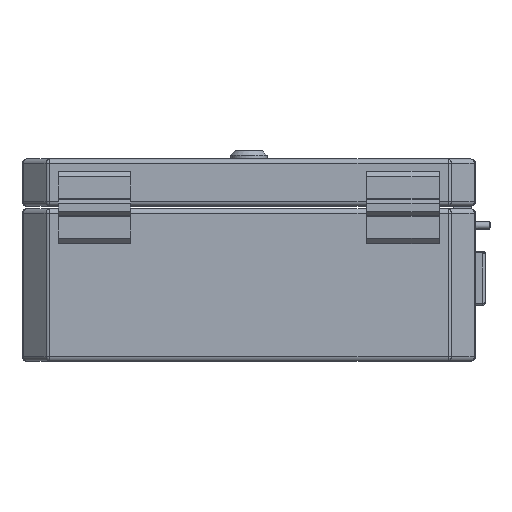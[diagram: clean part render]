
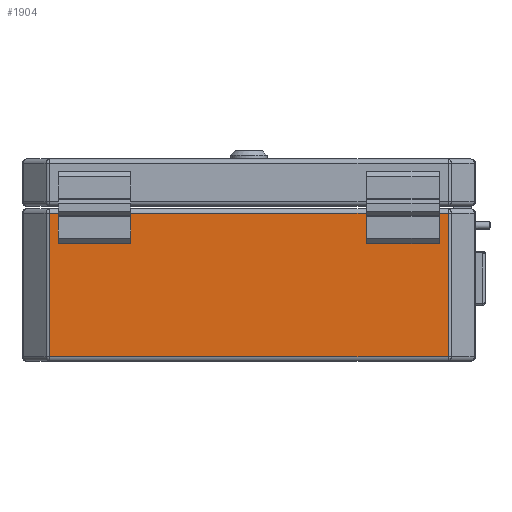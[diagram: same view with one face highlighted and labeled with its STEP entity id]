
A CAD part, left-side view. The second image highlights one B-rep face of the part: STEP entity #1904.
In plain terms, the highlighted planar face has unit normal (-1, 0, 0).
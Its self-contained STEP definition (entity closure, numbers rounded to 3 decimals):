
#1387=CARTESIAN_POINT('',(-212.5,-65.,64.75));
#1388=VERTEX_POINT('',#1387);
#1395=CARTESIAN_POINT('',(-212.5,-65.,79.35));
#1396=VERTEX_POINT('',#1395);
#1397=CARTESIAN_POINT('',(-212.5,-65.,64.75));
#1398=DIRECTION('',(0.,0.,1.));
#1399=VECTOR('',#1398,14.6);
#1400=LINE('',#1397,#1399);
#1401=EDGE_CURVE('',#1388,#1396,#1400,.T.);
#1556=CARTESIAN_POINT('',(-212.5,-105.,64.75));
#1557=VERTEX_POINT('',#1556);
#1564=CARTESIAN_POINT('',(-212.5,-105.,79.35));
#1565=VERTEX_POINT('',#1564);
#1566=CARTESIAN_POINT('',(-212.5,-105.,64.75));
#1567=DIRECTION('',(0.,0.,1.));
#1568=VECTOR('',#1567,14.6);
#1569=LINE('',#1566,#1568);
#1570=EDGE_CURVE('',#1557,#1565,#1569,.T.);
#1809=CARTESIAN_POINT('',(-212.5,-65.,64.75));
#1810=DIRECTION('',(0.,-1.,0.));
#1811=VECTOR('',#1810,40.);
#1812=LINE('',#1809,#1811);
#1813=EDGE_CURVE('',#1388,#1557,#1812,.T.);
#1820=CARTESIAN_POINT('',(-212.5,0.,43.25));
#1821=DIRECTION('',(0.,-1.,0.));
#1822=DIRECTION('',(-1.,0.,0.));
#1823=AXIS2_PLACEMENT_3D('',#1820,#1822,#1821);
#1824=PLANE('',#1823);
#1825=CARTESIAN_POINT('',(-212.5,109.964,2.5));
#1826=VERTEX_POINT('',#1825);
#1827=CARTESIAN_POINT('',(-212.5,-109.964,2.5));
#1828=VERTEX_POINT('',#1827);
#1829=CARTESIAN_POINT('',(-212.5,109.964,2.5));
#1830=DIRECTION('',(0.,-1.,0.));
#1831=VECTOR('',#1830,219.929);
#1832=LINE('',#1829,#1831);
#1833=EDGE_CURVE('',#1826,#1828,#1832,.T.);
#1834=ORIENTED_EDGE('',*,*,#1833,.T.);
#1835=CARTESIAN_POINT('',(-212.5,-109.964,81.5));
#1836=VERTEX_POINT('',#1835);
#1837=CARTESIAN_POINT('',(-212.5,-109.964,2.5));
#1838=DIRECTION('',(0.,0.,1.));
#1839=VECTOR('',#1838,79.);
#1840=LINE('',#1837,#1839);
#1841=EDGE_CURVE('',#1828,#1836,#1840,.T.);
#1842=ORIENTED_EDGE('',*,*,#1841,.T.);
#1843=CARTESIAN_POINT('',(-212.5,109.964,81.5));
#1844=VERTEX_POINT('',#1843);
#1845=CARTESIAN_POINT('',(-212.5,109.964,81.5));
#1846=DIRECTION('',(0.,-1.,0.));
#1847=VECTOR('',#1846,219.929);
#1848=LINE('',#1845,#1847);
#1849=EDGE_CURVE('',#1844,#1836,#1848,.T.);
#1850=ORIENTED_EDGE('',*,*,#1849,.F.);
#1851=CARTESIAN_POINT('',(-212.5,109.964,2.5));
#1852=DIRECTION('',(0.,0.,1.));
#1853=VECTOR('',#1852,79.);
#1854=LINE('',#1851,#1853);
#1855=EDGE_CURVE('',#1826,#1844,#1854,.T.);
#1856=ORIENTED_EDGE('',*,*,#1855,.F.);
#1857=EDGE_LOOP('',(#1834,#1842,#1850,#1856));
#1858=FACE_OUTER_BOUND('',#1857,.T.);
#1859=ORIENTED_EDGE('',*,*,#1401,.T.);
#1860=CARTESIAN_POINT('',(-212.5,-65.,79.35));
#1861=DIRECTION('',(0.,-1.,0.));
#1862=VECTOR('',#1861,40.);
#1863=LINE('',#1860,#1862);
#1864=EDGE_CURVE('',#1396,#1565,#1863,.T.);
#1865=ORIENTED_EDGE('',*,*,#1864,.T.);
#1866=ORIENTED_EDGE('',*,*,#1570,.F.);
#1867=ORIENTED_EDGE('',*,*,#1813,.F.);
#1868=EDGE_LOOP('',(#1859,#1865,#1866,#1867));
#1869=FACE_BOUND('',#1868,.T.);
#1870=CARTESIAN_POINT('',(-212.5,65.,64.75));
#1871=VERTEX_POINT('',#1870);
#1872=CARTESIAN_POINT('',(-212.5,65.,79.35));
#1873=VERTEX_POINT('',#1872);
#1874=CARTESIAN_POINT('',(-212.5,65.,64.75));
#1875=DIRECTION('',(0.,0.,1.));
#1876=VECTOR('',#1875,14.6);
#1877=LINE('',#1874,#1876);
#1878=EDGE_CURVE('',#1871,#1873,#1877,.T.);
#1879=ORIENTED_EDGE('',*,*,#1878,.F.);
#1880=CARTESIAN_POINT('',(-212.5,105.,64.75));
#1881=VERTEX_POINT('',#1880);
#1882=CARTESIAN_POINT('',(-212.5,65.,64.75));
#1883=DIRECTION('',(0.,1.,0.));
#1884=VECTOR('',#1883,40.);
#1885=LINE('',#1882,#1884);
#1886=EDGE_CURVE('',#1871,#1881,#1885,.T.);
#1887=ORIENTED_EDGE('',*,*,#1886,.T.);
#1888=CARTESIAN_POINT('',(-212.5,105.,79.35));
#1889=VERTEX_POINT('',#1888);
#1890=CARTESIAN_POINT('',(-212.5,105.,64.75));
#1891=DIRECTION('',(0.,0.,1.));
#1892=VECTOR('',#1891,14.6);
#1893=LINE('',#1890,#1892);
#1894=EDGE_CURVE('',#1881,#1889,#1893,.T.);
#1895=ORIENTED_EDGE('',*,*,#1894,.T.);
#1896=CARTESIAN_POINT('',(-212.5,65.,79.35));
#1897=DIRECTION('',(0.,1.,0.));
#1898=VECTOR('',#1897,40.);
#1899=LINE('',#1896,#1898);
#1900=EDGE_CURVE('',#1873,#1889,#1899,.T.);
#1901=ORIENTED_EDGE('',*,*,#1900,.F.);
#1902=EDGE_LOOP('',(#1879,#1887,#1895,#1901));
#1903=FACE_BOUND('',#1902,.T.);
#1904=ADVANCED_FACE('',(#1858,#1869,#1903),#1824,.T.);
